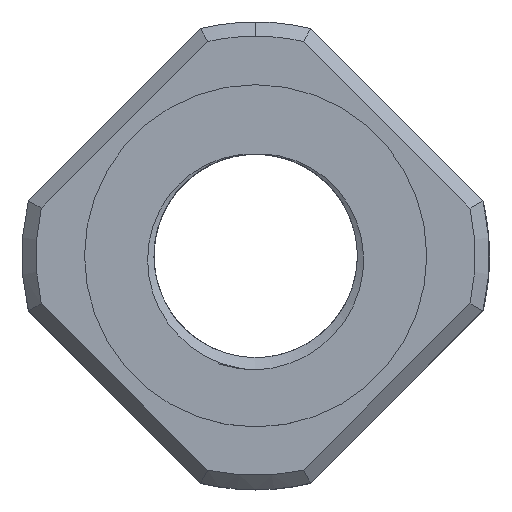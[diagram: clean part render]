
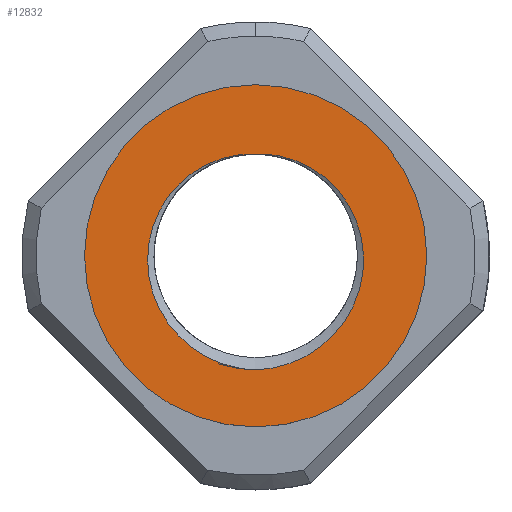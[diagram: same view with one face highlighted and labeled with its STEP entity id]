
A CAD part, top view. The second image highlights one B-rep face of the part: STEP entity #12832.
In plain terms, the highlighted planar face has unit normal (0, 0, 1).
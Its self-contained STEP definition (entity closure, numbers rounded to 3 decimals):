
#32 = CARTESIAN_POINT ( 'NONE',  ( 0.991, 3.474, 6.5 ) ) ;
#78 = CARTESIAN_POINT ( 'NONE',  ( -2.325, 2.841, 6.5 ) ) ;
#131 = CARTESIAN_POINT ( 'NONE',  ( -3.584, -1.388, 6.5 ) ) ;
#178 = CARTESIAN_POINT ( 'NONE',  ( 0., -4., 6.5 ) ) ;
#492 = AXIS2_PLACEMENT_3D ( 'NONE', #7566, #1351, #8614 ) ;
#903 = CARTESIAN_POINT ( 'NONE',  ( 0.495, -3.961, 6.5 ) ) ;
#987 = CARTESIAN_POINT ( 'NONE',  ( 1.888, -3.457, 6.5 ) ) ;
#1028 = CARTESIAN_POINT ( 'NONE',  ( 3.672, 0.81, 6.5 ) ) ;
#1070 = CARTESIAN_POINT ( 'NONE',  ( 0.25, 3.576, 6.5 ) ) ;
#1116 = CARTESIAN_POINT ( 'NONE',  ( -2.867, 2.337, 6.5 ) ) ;
#1156 = CARTESIAN_POINT ( 'NONE',  ( 0., -4., 6.5 ) ) ;
#1164 = CARTESIAN_POINT ( 'NONE',  ( -3.273, -2.062, 6.5 ) ) ;
#1252 = CIRCLE ( 'NONE', #492, 6. ) ;
#1256 = CARTESIAN_POINT ( 'NONE',  ( 0., 0., 6.5 ) ) ;
#1351 = DIRECTION ( 'NONE',  ( 0., 0., 1. ) ) ;
#1377 = VERTEX_POINT ( 'NONE', #1156 ) ;
#1449 = VERTEX_POINT ( 'NONE', #12093 ) ;
#2046 = CARTESIAN_POINT ( 'NONE',  ( 2.49, -3.017, 6.5 ) ) ;
#2089 = CARTESIAN_POINT ( 'NONE',  ( 3.415, 1.509, 6.5 ) ) ;
#2182 = CARTESIAN_POINT ( 'NONE',  ( -3.3, 1.728, 6.5 ) ) ;
#2224 = CARTESIAN_POINT ( 'NONE',  ( 0., 3.567, 6.5 ) ) ;
#2229 = CARTESIAN_POINT ( 'NONE',  ( -2.837, -2.667, 6.5 ) ) ;
#2320 = DIRECTION ( 'NONE',  ( 0., -1., 0. ) ) ;
#2540 = ORIENTED_EDGE ( 'NONE', *, *, #5970, .F. ) ;
#3084 = CARTESIAN_POINT ( 'NONE',  ( 2.996, -2.474, 6.5 ) ) ;
#3128 = CARTESIAN_POINT ( 'NONE',  ( 3.028, 2.14, 6.5 ) ) ;
#3166 = CARTESIAN_POINT ( 'NONE',  ( -0.25, 3.576, 6.5 ) ) ;
#3198 = ORIENTED_EDGE ( 'NONE', *, *, #4662, .T. ) ;
#3222 = CARTESIAN_POINT ( 'NONE',  ( -3.601, 1.051, 6.5 ) ) ;
#3272 = CARTESIAN_POINT ( 'NONE',  ( -2.3, -3.175, 6.5 ) ) ;
#4107 = CARTESIAN_POINT ( 'NONE',  ( 3.391, -1.845, 6.5 ) ) ;
#4151 = CARTESIAN_POINT ( 'NONE',  ( 2.518, 2.685, 6.5 ) ) ;
#4195 = CARTESIAN_POINT ( 'NONE',  ( -0.497, 3.559, 6.5 ) ) ;
#4246 = CARTESIAN_POINT ( 'NONE',  ( -3.765, 0.325, 6.5 ) ) ;
#4293 = CARTESIAN_POINT ( 'NONE',  ( -1.671, -3.577, 6.5 ) ) ;
#4662 = EDGE_CURVE ( 'NONE', #1449, #10697, #7164, .T. ) ;
#4971 = DIRECTION ( 'NONE',  ( 0., 0., -1. ) ) ;
#5114 = CARTESIAN_POINT ( 'NONE',  ( 0., 3.567, 6.5 ) ) ;
#5154 = CARTESIAN_POINT ( 'NONE',  ( 3.658, -1.15, 6.5 ) ) ;
#5180 = CARTESIAN_POINT ( 'NONE',  ( 0., 6., 6.5 ) ) ;
#5200 = CARTESIAN_POINT ( 'NONE',  ( 1.912, 3.111, 6.5 ) ) ;
#5242 = CARTESIAN_POINT ( 'NONE',  ( -1.227, 3.408, 6.5 ) ) ;
#5292 = CARTESIAN_POINT ( 'NONE',  ( -3.784, -0.42, 6.5 ) ) ;
#5317 = CARTESIAN_POINT ( 'NONE',  ( 0.25, -3.992, 6.5 ) ) ;
#5343 = CARTESIAN_POINT ( 'NONE',  ( -0.985, -3.851, 6.5 ) ) ;
#5366 = CARTESIAN_POINT ( 'NONE',  ( 0., -4., 6.5 ) ) ;
#5917 = EDGE_CURVE ( 'NONE', #1377, #8759, #10637, .T. ) ;
#5943 = ORIENTED_EDGE ( 'NONE', *, *, #5917, .F. ) ;
#5970 = EDGE_CURVE ( 'NONE', #8759, #1377, #8256, .T. ) ;
#6143 = EDGE_CURVE ( 'NONE', #10697, #1449, #1252, .T. ) ;
#6148 = CARTESIAN_POINT ( 'NONE',  ( 0.978, -3.853, 6.5 ) ) ;
#6189 = CARTESIAN_POINT ( 'NONE',  ( 3.784, -0.421, 6.5 ) ) ;
#6235 = CARTESIAN_POINT ( 'NONE',  ( 1.229, 3.407, 6.5 ) ) ;
#6284 = CARTESIAN_POINT ( 'NONE',  ( -1.907, 3.114, 6.5 ) ) ;
#6304 = AXIS2_PLACEMENT_3D ( 'NONE', #1256, #8525, #2320 ) ;
#6337 = CARTESIAN_POINT ( 'NONE',  ( -3.659, -1.149, 6.5 ) ) ;
#6382 = CARTESIAN_POINT ( 'NONE',  ( -0.25, -3.992, 6.5 ) ) ;
#7164 = CIRCLE ( 'NONE', #6304, 6. ) ;
#7197 = CARTESIAN_POINT ( 'NONE',  ( 1.672, -3.577, 6.5 ) ) ;
#7241 = ORIENTED_EDGE ( 'NONE', *, *, #6143, .T. ) ;
#7242 = CARTESIAN_POINT ( 'NONE',  ( 3.765, 0.325, 6.5 ) ) ;
#7291 = CARTESIAN_POINT ( 'NONE',  ( 0.5, 3.559, 6.5 ) ) ;
#7339 = CARTESIAN_POINT ( 'NONE',  ( -2.518, 2.684, 6.5 ) ) ;
#7387 = CARTESIAN_POINT ( 'NONE',  ( -3.391, -1.846, 6.5 ) ) ;
#7566 = CARTESIAN_POINT ( 'NONE',  ( 0., 0., 6.5 ) ) ;
#7982 = FACE_OUTER_BOUND ( 'NONE', #12676, .T. ) ;
#8250 = CARTESIAN_POINT ( 'NONE',  ( 2.3, -3.175, 6.5 ) ) ;
#8256 = B_SPLINE_CURVE_WITH_KNOTS ( 'NONE', 3,
 ( #5114, #3166, #4195, #11398, #5242, #12404, #6284, #78, #7339, #1116, #8387, #2182, #9421, #3222, #10442, #4246, #11443, #5292, #12446, #6337, #131, #7387, #1164, #8436, #2229, #9469, #3272, #10490, #4293, #11489, #5343, #12494, #6382, #178 ),
 .UNSPECIFIED., .F., .F.,
 ( 4, 2, 2, 2, 2, 2, 2, 2, 2, 2, 2, 2, 2, 2, 2, 2, 4 ),
 ( 0., 0.001, 0.001, 0.002, 0.003, 0.004, 0.004, 0.005, 0.006, 0.007, 0.007, 0.008, 0.009, 0.01, 0.01, 0.011, 0.012 ),
 .UNSPECIFIED. ) ;
#8295 = CARTESIAN_POINT ( 'NONE',  ( 3.603, 1.046, 6.5 ) ) ;
#8340 = CARTESIAN_POINT ( 'NONE',  ( 0., 3.567, 6.5 ) ) ;
#8387 = CARTESIAN_POINT ( 'NONE',  ( -3.027, 2.142, 6.5 ) ) ;
#8436 = CARTESIAN_POINT ( 'NONE',  ( -2.997, -2.472, 6.5 ) ) ;
#8525 = DIRECTION ( 'NONE',  ( 0., 0., 1. ) ) ;
#8614 = DIRECTION ( 'NONE',  ( 0., -1., 0. ) ) ;
#8759 = VERTEX_POINT ( 'NONE', #2224 ) ;
#8833 = AXIS2_PLACEMENT_3D ( 'NONE', #11144, #4971, #12130 ) ;
#9287 = CARTESIAN_POINT ( 'NONE',  ( 2.837, -2.667, 6.5 ) ) ;
#9330 = CARTESIAN_POINT ( 'NONE',  ( 3.299, 1.729, 6.5 ) ) ;
#9421 = CARTESIAN_POINT ( 'NONE',  ( -3.414, 1.51, 6.5 ) ) ;
#9469 = CARTESIAN_POINT ( 'NONE',  ( -2.489, -3.017, 6.5 ) ) ;
#10125 = PLANE ( 'NONE',  #8833 ) ;
#10308 = CARTESIAN_POINT ( 'NONE',  ( 3.273, -2.061, 6.5 ) ) ;
#10353 = CARTESIAN_POINT ( 'NONE',  ( 2.87, 2.334, 6.5 ) ) ;
#10442 = CARTESIAN_POINT ( 'NONE',  ( -3.672, 0.81, 6.5 ) ) ;
#10490 = CARTESIAN_POINT ( 'NONE',  ( -1.891, -3.456, 6.5 ) ) ;
#10637 = B_SPLINE_CURVE_WITH_KNOTS ( 'NONE', 3,
 ( #5366, #5317, #903, #6148, #13264, #7197, #987, #8250, #2046, #9287, #3084, #10308, #4107, #11317, #5154, #12309, #6189, #13310, #7242, #1028, #8295, #2089, #9330, #3128, #10353, #4151, #11358, #5200, #12354, #6235, #32, #7291, #1070, #8340 ),
 .UNSPECIFIED., .F., .F.,
 ( 4, 2, 2, 2, 2, 2, 2, 2, 2, 2, 2, 2, 2, 2, 2, 2, 4 ),
 ( 0., 0.001, 0.001, 0.002, 0.003, 0.004, 0.004, 0.005, 0.006, 0.007, 0.007, 0.008, 0.009, 0.01, 0.01, 0.011, 0.012 ),
 .UNSPECIFIED. ) ;
#10697 = VERTEX_POINT ( 'NONE', #5180 ) ;
#11021 = FACE_BOUND ( 'NONE', #11415, .T. ) ;
#11144 = CARTESIAN_POINT ( 'NONE',  ( 0., 6., 6.5 ) ) ;
#11317 = CARTESIAN_POINT ( 'NONE',  ( 3.583, -1.391, 6.5 ) ) ;
#11358 = CARTESIAN_POINT ( 'NONE',  ( 2.326, 2.84, 6.5 ) ) ;
#11398 = CARTESIAN_POINT ( 'NONE',  ( -0.984, 3.476, 6.5 ) ) ;
#11415 = EDGE_LOOP ( 'NONE', ( #2540, #5943 ) ) ;
#11443 = CARTESIAN_POINT ( 'NONE',  ( -3.788, 0.079, 6.5 ) ) ;
#11489 = CARTESIAN_POINT ( 'NONE',  ( -1.22, -3.774, 6.5 ) ) ;
#12093 = CARTESIAN_POINT ( 'NONE',  ( 0., -6., 6.5 ) ) ;
#12130 = DIRECTION ( 'NONE',  ( 0., 1., 0. ) ) ;
#12309 = CARTESIAN_POINT ( 'NONE',  ( 3.758, -0.666, 6.5 ) ) ;
#12354 = CARTESIAN_POINT ( 'NONE',  ( 1.688, 3.227, 6.5 ) ) ;
#12404 = CARTESIAN_POINT ( 'NONE',  ( -1.687, 3.227, 6.5 ) ) ;
#12446 = CARTESIAN_POINT ( 'NONE',  ( -3.758, -0.666, 6.5 ) ) ;
#12494 = CARTESIAN_POINT ( 'NONE',  ( -0.498, -3.961, 6.5 ) ) ;
#12676 = EDGE_LOOP ( 'NONE', ( #3198, #7241 ) ) ;
#12832 = ADVANCED_FACE ( 'NONE', ( #7982, #11021 ), #10125, .F. ) ;
#13264 = CARTESIAN_POINT ( 'NONE',  ( 1.217, -3.774, 6.5 ) ) ;
#13310 = CARTESIAN_POINT ( 'NONE',  ( 3.788, 0.075, 6.5 ) ) ;
